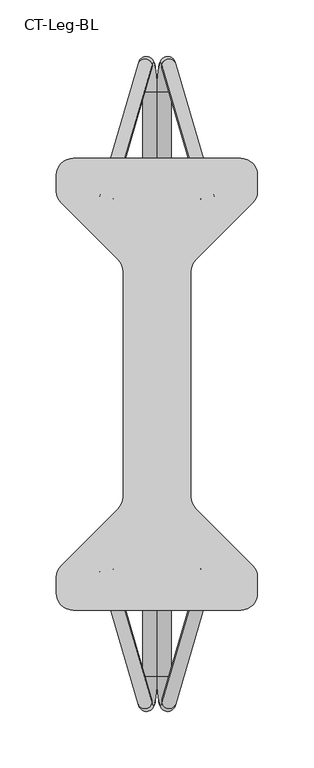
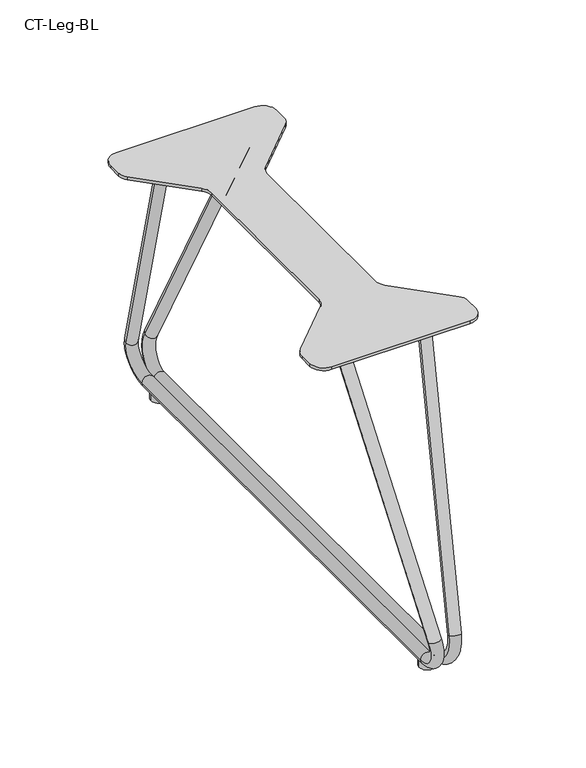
"""IFC4 building model written with IfcOpenShell, lengths in millimetres: furniture geometry, Davis_Furniture-Cantina-Leg : CT-Leg-BL."""

from ifc_helpers import new_model, si_unit, point, frame, frame_2d, origin, origin_with_axes, place, context, project, spatial, polyline, circle_curve, ellipse_curve, trimmed, segment, composite_curve, outline, extrude, source, transform, mapped, element, save
from ifc_brep_helpers import plane_surface, cylinder_surface, revolved_surface, advanced_brep


def ct_leg_bl_cbca5a48(model_context):
    return source(origin(), model_context, "Body", "SolidModel", [
        advanced_brep(
        [(4.3476455, 282.4506802, 51.3019909), (16.7863293, 281.0225001, 49.1737411), (51.3568189, 162.5458754, 330.7277844), (38.6568189, 164.8696131, 330.7277844), (-0.0044706, 258.6649172, 15.8568497), (12.6955294, 258.6649172, 15.8568497), (-0.0044706, -258.6649172, 15.8568497), (12.6955294, -258.6649172, 15.8568497), (4.3476455, -282.4506802, 51.3019909), (16.7863293, -281.0225001, 49.1737411), (38.6568189, -164.8696131, 330.7277844), (51.3568189, -162.5458754, 330.7277844)],
        [
            (0, 1, circle_curve(frame((10.5669874, 281.7365901, 50.237866), z_axis=(0.112455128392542, -0.3853952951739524, 0.9158735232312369), x_axis=(-0.9794239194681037, 0.11245512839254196, 0.16757872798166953)), 6.35)),
            (1, 2),
            (2, 3, ellipse_curve(frame((45.0068189, 163.7077443, 330.7277844), z_axis=(0.0, 0.0, -1.0), x_axis=(0.28011057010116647, -0.9599677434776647, 0.0)), 6.9332717, 6.35)),
            (3, 0),
            (1, 0, circle_curve(frame((10.5669874, 281.7365901, 50.237866), z_axis=(0.112455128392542, -0.3853952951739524, 0.9158735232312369), x_axis=(-0.9794239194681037, 0.11245512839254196, 0.16757872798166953)), 6.35)),
            (3, 2, ellipse_curve(frame((45.0068189, 163.7077443, 330.7277844), z_axis=(0.0, 0.0, -1.0), x_axis=(0.28011057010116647, -0.9599677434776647, 0.0)), 6.9332717, 6.35)),
            (0, 4, circle_curve(frame((3.1369549, 258.6649172, 41.4417072), z_axis=(-0.9925461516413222, 0.0, 0.12186934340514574), x_axis=(0.046967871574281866, 0.9227515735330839, 0.38252261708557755)), 25.7769953)),
            (4, 5, circle_curve(frame((6.3455294, 258.6649172, 15.8568497), z_axis=(0.0, 1.0, 0.0), x_axis=(-1.0, 0.0, 0.0)), 6.35)),
            (5, 1, circle_curve(frame((15.6483328, 258.6649172, 39.9055032), z_axis=(0.9925461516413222, 0.0, -0.12186934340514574), x_axis=(0.046967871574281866, 0.9227515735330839, 0.38252261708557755)), 24.2292547)),
            (5, 4, circle_curve(frame((6.3455294, 258.6649172, 15.8568497), z_axis=(0.0, 0.9999999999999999, 0.0), x_axis=(-1.0, 0.0, 0.0)), 6.35)),
            (4, 6),
            (6, 7, circle_curve(frame((6.3455294, -258.6649172, 15.8568497), z_axis=(0.0, 1.0, 0.0), x_axis=(-1.0, 0.0, 0.0)), 6.35)),
            (7, 5),
            (7, 6, circle_curve(frame((6.3455294, -258.6649172, 15.8568497), z_axis=(0.0, 1.0, 0.0), x_axis=(-1.0, 0.0, 0.0)), 6.35)),
            (6, 8, circle_curve(frame((3.1369549, -258.6649172, 41.4417072), z_axis=(-0.9925461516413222, 0.0, 0.12186934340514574), x_axis=(-0.12186934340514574, 0.0, -0.9925461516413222)), 25.7769953)),
            (8, 9, circle_curve(frame((10.5669874, -281.7365901, 50.237866), z_axis=(-0.11245512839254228, -0.3853952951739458, -0.9158735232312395), x_axis=(-0.9794239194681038, -0.1124551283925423, 0.16757872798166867)), 6.35)),
            (9, 7, circle_curve(frame((15.6483328, -258.6649172, 39.9055032), z_axis=(0.9925461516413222, 0.0, -0.12186934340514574), x_axis=(-0.12186934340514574, 0.0, -0.9925461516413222)), 24.2292547)),
            (9, 8, circle_curve(frame((10.5669874, -281.7365901, 50.237866), z_axis=(-0.11245512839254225, -0.3853952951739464, -0.9158735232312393), x_axis=(-0.9794239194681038, -0.11245512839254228, 0.16757872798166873)), 6.35)),
            (8, 10),
            (10, 11, ellipse_curve(frame((45.0068189, -163.7077443, 330.7277844), z_axis=(0.0, 0.0, -1.0), x_axis=(-0.28011057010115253, -0.9599677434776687, 0.0)), 6.9332717, 6.35)),
            (11, 9),
            (11, 10, ellipse_curve(frame((45.0068189, -163.7077443, 330.7277844), z_axis=(0.0, 0.0, -1.0), x_axis=(-0.28011057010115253, -0.9599677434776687, 0.0)), 6.9332717, 6.35)),
        ],
        [
            cylinder_surface(frame((46.1405198, 159.8224344, 339.9610379), z_axis=(0.112455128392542, -0.3853952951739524, 0.9158735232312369), x_axis=(-0.9794239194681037, 0.11245512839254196, 0.16757872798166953)), 6.35),
            revolved_surface(trimmed(ellipse_curve(frame((10.5669874, 281.7365901, 50.237866), z_axis=(0.11245512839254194, -0.38539529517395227, 0.9158735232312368), x_axis=(-0.9794239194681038, 0.112455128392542, 0.1675787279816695)), 6.35, 6.35), [point((4.3476455, 282.4506802, 51.3019909))], [point((16.7863293, 281.0225001, 49.1737411))], True, "CARTESIAN"), (62.3582375, 258.6649172, 34.170248), (-0.9925461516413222, 0.0, 0.12186934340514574)),
            revolved_surface(trimmed(ellipse_curve(frame((10.5669874, 281.7365901, 50.237866), z_axis=(0.11245512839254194, -0.38539529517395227, 0.9158735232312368), x_axis=(-0.9794239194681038, 0.112455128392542, 0.1675787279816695)), 6.35, 6.35), [point((16.7863293, 281.0225001, 49.1737411))], [point((4.3476455, 282.4506802, 51.3019909))], True, "CARTESIAN"), (62.3582375, 258.6649172, 34.170248), (-0.9925461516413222, 0.0, 0.12186934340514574)),
            cylinder_surface(frame((6.3455294, 258.6649172, 15.8568497), z_axis=(0.0, 1.0, 0.0), x_axis=(-1.0, 0.0, 0.0)), 6.35),
            revolved_surface(trimmed(ellipse_curve(frame((6.3455294, -258.6649172, 15.8568497), z_axis=(0.0, 1.0, 0.0), x_axis=(-1.0, 0.0, 0.0)), 6.35, 6.35), [point((-0.0044706, -258.6649172, 15.8568497))], [point((12.6955294, -258.6649172, 15.8568497))], True, "CARTESIAN"), (62.3582375, -258.6649172, 34.170248), (-0.9925461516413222, 0.0, 0.12186934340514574)),
            revolved_surface(trimmed(ellipse_curve(frame((6.3455294, -258.6649172, 15.8568497), z_axis=(0.0, 1.0, 0.0), x_axis=(-1.0, 0.0, 0.0)), 6.35, 6.35), [point((12.6955294, -258.6649172, 15.8568497))], [point((-0.0044706, -258.6649172, 15.8568497))], True, "CARTESIAN"), (62.3582375, -258.6649172, 34.170248), (-0.9925461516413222, 0.0, 0.12186934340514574)),
            cylinder_surface(frame((10.5669874, -281.7365901, 50.237866), z_axis=(-0.11245512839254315, -0.38539529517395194, -0.9158735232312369), x_axis=(-0.9794239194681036, -0.11245512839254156, 0.1675787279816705)), 6.35),
            plane_surface(frame((-60.325, -184.15, 330.7277844), z_axis=(0.0, 0.0, 1.0), x_axis=(0.0, 1.0, 0.0))),
        ],
        [
            (0, [[1, 2, 3, 4]]),
            (0, [[5, -4, 6, -2]]),
            (1, [[-1, 7, 8, 9]]),
            (2, [[-5, -9, 10, -7]]),
            (3, [[-8, 11, 12, 13]]),
            (3, [[-10, -13, 14, -11]]),
            (4, [[-12, 15, 16, 17]]),
            (5, [[-14, -17, 18, -15]]),
            (6, [[-16, 19, 20, 21]]),
            (6, [[-18, -21, 22, -19]]),
            (7, [[-3, -6]]),
            (7, [[-20, -22]]),
        ],
    ),
        advanced_brep(
        [(-16.7863293, 281.0225001, 49.1737411), (-4.3476455, 282.4506802, 51.3019909), (-38.6568189, 164.8696131, 330.7277844), (-51.3568189, 162.5458754, 330.7277844), (-12.6955294, 258.6649172, 15.8568497), (0.0044706, 258.6649172, 15.8568497), (-12.6955294, -258.6649172, 15.8568497), (0.0044706, -258.6649172, 15.8568497), (-16.7863293, -281.0225001, 49.1737411), (-4.3476455, -282.4506802, 51.3019909), (-51.3568189, -162.5458754, 330.7277844), (-38.6568189, -164.8696131, 330.7277844)],
        [
            (0, 1, circle_curve(frame((-10.5669874, 281.7365901, 50.237866), z_axis=(-0.11245512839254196, -0.38539529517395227, 0.915873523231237), x_axis=(0.9794239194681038, 0.11245512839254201, 0.1675787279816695)), 6.35)),
            (1, 2),
            (2, 3, ellipse_curve(frame((-45.0068189, 163.7077443, 330.7277844), z_axis=(0.0, 0.0, -1.0), x_axis=(-0.28011057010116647, -0.9599677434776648, 0.0)), 6.9332717, 6.35)),
            (3, 0),
            (1, 0, circle_curve(frame((-10.5669874, 281.7365901, 50.237866), z_axis=(-0.11245512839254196, -0.38539529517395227, 0.915873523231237), x_axis=(0.9794239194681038, 0.11245512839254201, 0.1675787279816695)), 6.35)),
            (3, 2, ellipse_curve(frame((-45.0068189, 163.7077443, 330.7277844), z_axis=(0.0, 0.0, -1.0), x_axis=(-0.28011057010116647, -0.9599677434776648, 0.0)), 6.9332717, 6.35)),
            (0, 4, circle_curve(frame((-15.6483328, 258.6649172, 39.9055032), z_axis=(-0.9925461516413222, 0.0, -0.12186934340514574), x_axis=(-0.046967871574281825, 0.9227515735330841, 0.38252261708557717)), 24.2292547)),
            (4, 5, circle_curve(frame((-6.3455294, 258.6649172, 15.8568497), z_axis=(0.0, 1.0000000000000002, 0.0), x_axis=(1.0, 0.0, 0.0)), 6.35)),
            (5, 1, circle_curve(frame((-3.1369549, 258.6649172, 41.4417072), z_axis=(0.9925461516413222, 0.0, 0.12186934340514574), x_axis=(-0.046967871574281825, 0.9227515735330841, 0.38252261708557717)), 25.7769953)),
            (5, 4, circle_curve(frame((-6.3455294, 258.6649172, 15.8568497), z_axis=(0.0, 1.0000000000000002, 0.0), x_axis=(1.0, 0.0, 0.0)), 6.35)),
            (4, 6),
            (6, 7, circle_curve(frame((-6.3455294, -258.6649172, 15.8568497), z_axis=(0.0, 1.0, 0.0), x_axis=(1.0, 0.0, 0.0)), 6.35)),
            (7, 5),
            (7, 6, circle_curve(frame((-6.3455294, -258.6649172, 15.8568497), z_axis=(0.0, 1.0, 0.0), x_axis=(1.0, 0.0, 0.0)), 6.35)),
            (6, 8, circle_curve(frame((-15.6483328, -258.6649172, 39.9055032), z_axis=(-0.9925461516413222, 0.0, -0.12186934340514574), x_axis=(0.12186934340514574, 0.0, -0.9925461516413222)), 24.2292547)),
            (8, 9, circle_curve(frame((-10.5669874, -281.7365901, 50.237866), z_axis=(0.11245512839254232, -0.3853952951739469, -0.915873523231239), x_axis=(0.9794239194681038, -0.11245512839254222, 0.1675787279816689)), 6.35)),
            (9, 7, circle_curve(frame((-3.1369549, -258.6649172, 41.4417072), z_axis=(0.9925461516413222, 0.0, 0.12186934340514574), x_axis=(0.12186934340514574, 0.0, -0.9925461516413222)), 25.7769953)),
            (9, 8, circle_curve(frame((-10.5669874, -281.7365901, 50.237866), z_axis=(0.11245512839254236, -0.3853952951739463, -0.9158735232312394), x_axis=(0.9794239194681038, -0.11245512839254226, 0.1675787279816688)), 6.35)),
            (8, 10),
            (10, 11, ellipse_curve(frame((-45.0068189, -163.7077443, 330.7277844), z_axis=(0.0, 0.0, -1.0), x_axis=(0.2801105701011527, -0.9599677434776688, 0.0)), 6.9332717, 6.35)),
            (11, 9),
            (11, 10, ellipse_curve(frame((-45.0068189, -163.7077443, 330.7277844), z_axis=(0.0, 0.0, -1.0), x_axis=(0.2801105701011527, -0.9599677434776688, 0.0)), 6.9332717, 6.35)),
        ],
        [
            cylinder_surface(frame((-46.1405198, 159.8224344, 339.9610379), z_axis=(-0.11245512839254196, -0.38539529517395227, 0.915873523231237), x_axis=(0.9794239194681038, 0.11245512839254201, 0.1675787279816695)), 6.35),
            revolved_surface(trimmed(ellipse_curve(frame((-10.5669874, 281.7365901, 50.237866), z_axis=(-0.11245512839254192, -0.385395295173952, 0.9158735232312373), x_axis=(0.9794239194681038, 0.11245512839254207, 0.1675787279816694)), 6.35, 6.35), [point((-16.7863293, 281.0225001, 49.1737411))], [point((-4.3476455, 282.4506802, 51.3019909))], True, "CARTESIAN"), (-62.3582375, 258.6649172, 34.170248), (-0.9925461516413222, 0.0, -0.12186934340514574)),
            revolved_surface(trimmed(ellipse_curve(frame((-10.5669874, 281.7365901, 50.237866), z_axis=(-0.11245512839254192, -0.385395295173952, 0.9158735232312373), x_axis=(0.9794239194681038, 0.11245512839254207, 0.1675787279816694)), 6.35, 6.35), [point((-4.3476455, 282.4506802, 51.3019909))], [point((-16.7863293, 281.0225001, 49.1737411))], True, "CARTESIAN"), (-62.3582375, 258.6649172, 34.170248), (-0.9925461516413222, 0.0, -0.12186934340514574)),
            cylinder_surface(frame((-6.3455294, 258.6649172, 15.8568497), z_axis=(0.0, 1.0, 0.0), x_axis=(1.0, 0.0, 0.0)), 6.35),
            revolved_surface(trimmed(ellipse_curve(frame((-6.3455294, -258.6649172, 15.8568497), z_axis=(0.0, 1.0, 0.0), x_axis=(1.0, 0.0, 0.0)), 6.35, 6.35), [point((-12.6955294, -258.6649172, 15.8568497))], [point((0.0044706, -258.6649172, 15.8568497))], True, "CARTESIAN"), (-62.3582375, -258.6649172, 34.170248), (-0.9925461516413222, 0.0, -0.12186934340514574)),
            revolved_surface(trimmed(ellipse_curve(frame((-6.3455294, -258.6649172, 15.8568497), z_axis=(0.0, 1.0, 0.0), x_axis=(1.0, 0.0, 0.0)), 6.35, 6.35), [point((0.0044706, -258.6649172, 15.8568497))], [point((-12.6955294, -258.6649172, 15.8568497))], True, "CARTESIAN"), (-62.3582375, -258.6649172, 34.170248), (-0.9925461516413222, 0.0, -0.12186934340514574)),
            cylinder_surface(frame((-10.5669874, -281.7365901, 50.237866), z_axis=(0.11245512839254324, -0.38539529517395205, -0.9158735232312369), x_axis=(0.9794239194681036, -0.11245512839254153, 0.16757872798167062)), 6.35),
            plane_surface(frame((-60.325, -184.15, 330.7277844), z_axis=(0.0, 0.0, 1.0), x_axis=(0.0, 1.0, 0.0))),
        ],
        [
            (0, [[1, 2, 3, 4]]),
            (0, [[5, -4, 6, -2]]),
            (1, [[-1, 7, 8, 9]]),
            (2, [[-5, -9, 10, -7]]),
            (3, [[-8, 11, 12, 13]]),
            (3, [[-10, -13, 14, -11]]),
            (4, [[-12, 15, 16, 17]]),
            (5, [[-14, -17, 18, -15]]),
            (6, [[-16, 19, 20, 21]]),
            (6, [[-18, -21, 22, -19]]),
            (7, [[-3, -6]]),
            (7, [[-20, -22]]),
        ],
    ),
        extrude(outline(composite_curve([segment(trimmed(circle_curve(frame_2d((74.0179687, 184.8179689)), 14.9820313), [point((74.0179687, 199.8000002))], [point((88.9999999, 184.8179689))], False, "CARTESIAN"), True, "CONTINUOUS"), segment(polyline([(88.9999999, 184.8179689), (88.9999999, 170.3884193)]), True, "CONTINUOUS"), segment(trimmed(circle_curve(frame_2d((74.9936443, 170.3884193)), 14.0063557), [point((88.9999999, 170.3884193))], [point((84.8976333, 160.4844302))], False, "CARTESIAN"), True, "CONTINUOUS"), segment(polyline([(84.8976333, 160.4844302), (34.3009538, 109.8877506)]), True, "CONTINUOUS"), segment(trimmed(circle_curve(frame_2d((44.6843749, 99.5043295)), 14.684375), [point((34.3009538, 109.8877506))], [point((29.9999999, 99.5043295))], True, "CARTESIAN"), True, "CONTINUOUS"), segment(polyline([(29.9999999, 99.5043295), (29.9999999, -99.9043293)]), True, "CONTINUOUS"), segment(trimmed(circle_curve(frame_2d((44.6843749, -99.9043293)), 14.684375), [point((29.9999999, -99.9043293))], [point((34.3009538, -110.2877505))], True, "CARTESIAN"), True, "CONTINUOUS"), segment(polyline([(34.3009538, -110.2877505), (84.8976333, -160.88443)]), True, "CONTINUOUS"), segment(trimmed(circle_curve(frame_2d((74.9936443, -170.7884191)), 14.0063557), [point((84.8976333, -160.88443))], [point((88.9999999, -170.7884191))], False, "CARTESIAN"), True, "CONTINUOUS"), segment(polyline([(88.9999999, -170.7884191), (88.9999999, -185.2179688)]), True, "CONTINUOUS"), segment(trimmed(circle_curve(frame_2d((74.0179687, -185.2179688)), 14.9820312), [point((88.9999999, -185.2179688))], [point((74.0179687, -200.2))], False, "CARTESIAN"), True, "CONTINUOUS"), segment(polyline([(74.0179687, -200.2), (-74.0433939, -200.2)]), True, "CONTINUOUS"), segment(trimmed(circle_curve(frame_2d((-74.0433939, -185.243394)), 14.956606), [point((-74.0433939, -200.2))], [point((-88.9999999, -185.243394))], False, "CARTESIAN"), True, "CONTINUOUS"), segment(polyline([(-88.9999999, -185.243394), (-88.9999999, -170.7815796)]), True, "CONTINUOUS"), segment(trimmed(circle_curve(frame_2d((-75.0101562, -170.7815796)), 13.9898438), [point((-88.9999999, -170.7815796))], [point((-84.9024696, -160.8892662))], False, "CARTESIAN"), True, "CONTINUOUS"), segment(polyline([(-84.9024696, -160.8892662), (-34.3009538, -110.2877505)]), True, "CONTINUOUS"), segment(trimmed(circle_curve(frame_2d((-44.6843749, -99.9043293)), 14.684375), [point((-34.3009538, -110.2877505))], [point((-29.9999999, -99.9043293))], True, "CARTESIAN"), True, "CONTINUOUS"), segment(polyline([(-29.9999999, -99.9043293), (-29.9999999, 99.5195697)]), True, "CONTINUOUS"), segment(trimmed(circle_curve(frame_2d((-44.6475818, 99.5195697)), 14.6475818), [point((-29.9999999, 99.5195697))], [point((-34.2901773, 109.8769742))], True, "CARTESIAN"), True, "CONTINUOUS"), segment(polyline([(-34.2901773, 109.8769742), (-84.9024696, 160.4892664)]), True, "CONTINUOUS"), segment(trimmed(circle_curve(frame_2d((-75.0101562, 170.3815798)), 13.9898438), [point((-84.9024696, 160.4892664))], [point((-88.9999999, 170.3815798))], False, "CARTESIAN"), True, "CONTINUOUS"), segment(polyline([(-88.9999999, 170.3815798), (-88.9999999, 184.8433942)]), True, "CONTINUOUS"), segment(trimmed(circle_curve(frame_2d((-74.0433939, 184.8433942)), 14.956606), [point((-88.9999999, 184.8433942))], [point((-74.0433939, 199.8000002))], False, "CARTESIAN"), True, "CONTINUOUS"), segment(polyline([(-74.0433939, 199.8000002), (74.0179687, 199.8000002)]), True, "CONTINUOUS")], self_intersect=False)), frame((0.0, 0.0, 330.7277844), z_axis=(0.0, 0.0, 1.0), x_axis=(1.0, 0.0, 0.0)), (0.0, 0.0, 1.0), 3.1724353),
        extrude(outline(composite_curve([segment(trimmed(circle_curve(frame_2d((0.0, -249.0853635)), 8.5328125), [point((-8.5328125, -249.0853635))], [point((8.5328125, -249.0853635))], False, "CARTESIAN"), True, "CONTINUOUS"), segment(trimmed(circle_curve(frame_2d((0.0, -249.0853635)), 8.5328125), [point((8.5328125, -249.0853635))], [point((-8.5328125, -249.0853635))], False, "CARTESIAN"), True, "CONTINUOUS")], self_intersect=False)), origin_with_axes(), (0.0, 0.0, 1.0), 9.5168817),
        extrude(outline(composite_curve([segment(trimmed(circle_curve(frame_2d((0.0, 249.0853635)), 8.5328125), [point((-8.5328125, 249.0853635))], [point((8.5328125, 249.0853635))], False, "CARTESIAN"), True, "CONTINUOUS"), segment(trimmed(circle_curve(frame_2d((0.0, 249.0853635)), 8.5328125), [point((8.5328125, 249.0853635))], [point((-8.5328125, 249.0853635))], False, "CARTESIAN"), True, "CONTINUOUS")], self_intersect=False)), origin_with_axes(), (0.0, 0.0, 1.0), 9.5168817),
    ])


if __name__ == "__main__":
    model = new_model("IFC4")
    model_context = context("Model", 3, world=origin())
    ifc_project = project(units=[si_unit("LENGTHUNIT", "METRE", prefix="MILLI")], contexts=[model_context])
    site = spatial("IfcSite", under=ifc_project)
    building = spatial("IfcBuilding", under=site)
    placement = place(None, origin())
    ct_leg_bl_shape = ct_leg_bl_cbca5a48(model_context)
    element("IfcFurniture", 1, ObjectType="Davis_Furniture-Cantina-Leg : CT-Leg-BL", at=placement, inside=building, context=model_context, shape_type="MappedRepresentation", body=[
        mapped(ct_leg_bl_shape, transform((0.0, 0.0, 0.0), x_axis=(1.0, 0.0, 0.0), y_axis=(0.0, 1.0, 0.0), z_axis=(0.0, 0.0, 1.0))),
    ])
    save(model, "model.ifc")
